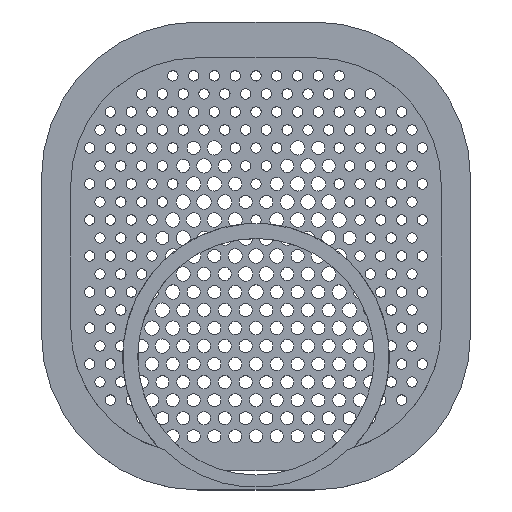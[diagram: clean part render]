
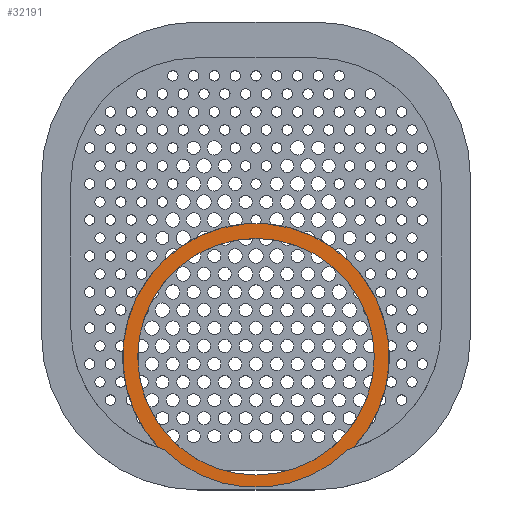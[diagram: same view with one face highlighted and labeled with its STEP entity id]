
A CAD part, top view. The second image highlights one B-rep face of the part: STEP entity #32191.
In plain terms, the highlighted planar face has unit normal (0, 0, 1).
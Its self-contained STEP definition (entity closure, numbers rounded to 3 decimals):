
#12131 = CYLINDRICAL_SURFACE('',#12132,18.2);
#12132 = AXIS2_PLACEMENT_3D('',#12133,#12134,#12135);
#12133 = CARTESIAN_POINT('',(0.,-15.5,2.1));
#12134 = DIRECTION('',(-0.,0.,1.));
#12135 = DIRECTION('',(1.,0.,0.));
#31276 = VERTEX_POINT('',#31277);
#31277 = CARTESIAN_POINT('',(18.2,-15.5,1.9));
#31298 = EDGE_CURVE('',#31276,#31276,#31299,.T.);
#31299 = SURFACE_CURVE('',#31300,(#31305,#31312),.PCURVE_S1.);
#31300 = CIRCLE('',#31301,18.2);
#31301 = AXIS2_PLACEMENT_3D('',#31302,#31303,#31304);
#31302 = CARTESIAN_POINT('',(0.,-15.5,1.9));
#31303 = DIRECTION('',(-0.,0.,1.));
#31304 = DIRECTION('',(1.,0.,0.));
#31305 = PCURVE('',#12131,#31306);
#31306 = DEFINITIONAL_REPRESENTATION('',(#31307),#31311);
#31307 = LINE('',#31308,#31309);
#31308 = CARTESIAN_POINT('',(0.,-0.2));
#31309 = VECTOR('',#31310,1.);
#31310 = DIRECTION('',(1.,-0.));
#31311 = ( GEOMETRIC_REPRESENTATION_CONTEXT(2) 
PARAMETRIC_REPRESENTATION_CONTEXT() REPRESENTATION_CONTEXT('2D SPACE',''
  ) );
#31312 = PCURVE('',#31313,#31318);
#31313 = PLANE('',#31314);
#31314 = AXIS2_PLACEMENT_3D('',#31315,#31316,#31317);
#31315 = CARTESIAN_POINT('',(0.,-15.5,1.9));
#31316 = DIRECTION('',(0.,0.,-1.));
#31317 = DIRECTION('',(1.,0.,0.));
#31318 = DEFINITIONAL_REPRESENTATION('',(#31319),#31327);
#31319 = ( BOUNDED_CURVE() B_SPLINE_CURVE(2,(#31320,#31321,#31322,#31323
    ,#31324,#31325,#31326),.UNSPECIFIED.,.T.,.F.) 
B_SPLINE_CURVE_WITH_KNOTS((1,2,2,2,2,1),(-2.094,0.,
    2.094,4.189,6.283,8.378),
.UNSPECIFIED.) CURVE() GEOMETRIC_REPRESENTATION_ITEM() 
RATIONAL_B_SPLINE_CURVE((1.,0.5,1.,0.5,1.,0.5,1.)) REPRESENTATION_ITEM(
  '') );
#31320 = CARTESIAN_POINT('',(18.2,0.));
#31321 = CARTESIAN_POINT('',(18.2,-31.523));
#31322 = CARTESIAN_POINT('',(-9.1,-15.762));
#31323 = CARTESIAN_POINT('',(-36.4,0.));
#31324 = CARTESIAN_POINT('',(-9.1,15.762));
#31325 = CARTESIAN_POINT('',(18.2,31.523));
#31326 = CARTESIAN_POINT('',(18.2,0.));
#31327 = ( GEOMETRIC_REPRESENTATION_CONTEXT(2) 
PARAMETRIC_REPRESENTATION_CONTEXT() REPRESENTATION_CONTEXT('2D SPACE',''
  ) );
#31490 = CYLINDRICAL_SURFACE('',#31491,19.5);
#31491 = AXIS2_PLACEMENT_3D('',#31492,#31493,#31494);
#31492 = CARTESIAN_POINT('',(-9.,-11.,2.8));
#31493 = DIRECTION('',(0.,0.,-1.));
#31494 = DIRECTION('',(-1.,0.,-0.));
#31523 = CYLINDRICAL_SURFACE('',#31524,20.1);
#31524 = AXIS2_PLACEMENT_3D('',#31525,#31526,#31527);
#31525 = CARTESIAN_POINT('',(0.,-15.5,3.));
#31526 = DIRECTION('',(-0.,0.,1.));
#31527 = DIRECTION('',(1.,0.,0.));
#31552 = CYLINDRICAL_SURFACE('',#31553,19.5);
#31553 = AXIS2_PLACEMENT_3D('',#31554,#31555,#31556);
#31554 = CARTESIAN_POINT('',(9.,-11.,2.8));
#31555 = DIRECTION('',(0.,0.,-1.));
#31556 = DIRECTION('',(1.,0.,0.));
#32017 = CYLINDRICAL_SURFACE('',#32018,20.5);
#32018 = AXIS2_PLACEMENT_3D('',#32019,#32020,#32021);
#32019 = CARTESIAN_POINT('',(0.,-15.5,1.9));
#32020 = DIRECTION('',(-0.,0.,1.));
#32021 = DIRECTION('',(1.,0.,0.));
#32191 = ADVANCED_FACE('',(#32192,#32294),#31313,.F.);
#32192 = FACE_BOUND('',#32193,.F.);
#32193 = EDGE_LOOP('',(#32194,#32220,#32244,#32272));
#32194 = ORIENTED_EDGE('',*,*,#32195,.T.);
#32195 = EDGE_CURVE('',#32196,#32198,#32200,.T.);
#32196 = VERTEX_POINT('',#32197);
#32197 = CARTESIAN_POINT('',(-14.892,-29.589,1.9));
#32198 = VERTEX_POINT('',#32199);
#32199 = CARTESIAN_POINT('',(14.892,-29.589,1.9));
#32200 = SURFACE_CURVE('',#32201,(#32206,#32213),.PCURVE_S1.);
#32201 = CIRCLE('',#32202,20.5);
#32202 = AXIS2_PLACEMENT_3D('',#32203,#32204,#32205);
#32203 = CARTESIAN_POINT('',(0.,-15.5,1.9));
#32204 = DIRECTION('',(0.,0.,-1.));
#32205 = DIRECTION('',(-0.726,-0.687,0.
    ));
#32206 = PCURVE('',#31313,#32207);
#32207 = DEFINITIONAL_REPRESENTATION('',(#32208),#32212);
#32208 = CIRCLE('',#32209,20.5);
#32209 = AXIS2_PLACEMENT_2D('',#32210,#32211);
#32210 = CARTESIAN_POINT('',(0.,0.));
#32211 = DIRECTION('',(-0.726,0.687));
#32212 = ( GEOMETRIC_REPRESENTATION_CONTEXT(2) 
PARAMETRIC_REPRESENTATION_CONTEXT() REPRESENTATION_CONTEXT('2D SPACE',''
  ) );
#32213 = PCURVE('',#32017,#32214);
#32214 = DEFINITIONAL_REPRESENTATION('',(#32215),#32219);
#32215 = LINE('',#32216,#32217);
#32216 = CARTESIAN_POINT('',(3.899,0.));
#32217 = VECTOR('',#32218,1.);
#32218 = DIRECTION('',(-1.,0.));
#32219 = ( GEOMETRIC_REPRESENTATION_CONTEXT(2) 
PARAMETRIC_REPRESENTATION_CONTEXT() REPRESENTATION_CONTEXT('2D SPACE',''
  ) );
#32220 = ORIENTED_EDGE('',*,*,#32221,.T.);
#32221 = EDGE_CURVE('',#32198,#32222,#32224,.T.);
#32222 = VERTEX_POINT('',#32223);
#32223 = CARTESIAN_POINT('',(14.105,-29.82,1.9));
#32224 = SURFACE_CURVE('',#32225,(#32230,#32237),.PCURVE_S1.);
#32225 = CIRCLE('',#32226,19.5);
#32226 = AXIS2_PLACEMENT_3D('',#32227,#32228,#32229);
#32227 = CARTESIAN_POINT('',(9.,-11.,1.9));
#32228 = DIRECTION('',(0.,0.,-1.));
#32229 = DIRECTION('',(1.,0.,0.));
#32230 = PCURVE('',#31313,#32231);
#32231 = DEFINITIONAL_REPRESENTATION('',(#32232),#32236);
#32232 = CIRCLE('',#32233,19.5);
#32233 = AXIS2_PLACEMENT_2D('',#32234,#32235);
#32234 = CARTESIAN_POINT('',(9.,-4.5));
#32235 = DIRECTION('',(1.,0.));
#32236 = ( GEOMETRIC_REPRESENTATION_CONTEXT(2) 
PARAMETRIC_REPRESENTATION_CONTEXT() REPRESENTATION_CONTEXT('2D SPACE',''
  ) );
#32237 = PCURVE('',#31552,#32238);
#32238 = DEFINITIONAL_REPRESENTATION('',(#32239),#32243);
#32239 = LINE('',#32240,#32241);
#32240 = CARTESIAN_POINT('',(0.,0.9));
#32241 = VECTOR('',#32242,1.);
#32242 = DIRECTION('',(1.,0.));
#32243 = ( GEOMETRIC_REPRESENTATION_CONTEXT(2) 
PARAMETRIC_REPRESENTATION_CONTEXT() REPRESENTATION_CONTEXT('2D SPACE',''
  ) );
#32244 = ORIENTED_EDGE('',*,*,#32245,.F.);
#32245 = EDGE_CURVE('',#32246,#32222,#32248,.T.);
#32246 = VERTEX_POINT('',#32247);
#32247 = CARTESIAN_POINT('',(-14.105,-29.82,1.9));
#32248 = SURFACE_CURVE('',#32249,(#32254,#32265),.PCURVE_S1.);
#32249 = CIRCLE('',#32250,20.1);
#32250 = AXIS2_PLACEMENT_3D('',#32251,#32252,#32253);
#32251 = CARTESIAN_POINT('',(0.,-15.5,1.9));
#32252 = DIRECTION('',(-0.,0.,1.));
#32253 = DIRECTION('',(1.,0.,0.));
#32254 = PCURVE('',#31313,#32255);
#32255 = DEFINITIONAL_REPRESENTATION('',(#32256),#32264);
#32256 = ( BOUNDED_CURVE() B_SPLINE_CURVE(2,(#32257,#32258,#32259,#32260
    ,#32261,#32262,#32263),.UNSPECIFIED.,.T.,.F.) 
B_SPLINE_CURVE_WITH_KNOTS((1,2,2,2,2,1),(-2.094,0.,
    2.094,4.189,6.283,8.378),
.UNSPECIFIED.) CURVE() GEOMETRIC_REPRESENTATION_ITEM() 
RATIONAL_B_SPLINE_CURVE((1.,0.5,1.,0.5,1.,0.5,1.)) REPRESENTATION_ITEM(
  '') );
#32257 = CARTESIAN_POINT('',(20.1,0.));
#32258 = CARTESIAN_POINT('',(20.1,-34.814));
#32259 = CARTESIAN_POINT('',(-10.05,-17.407));
#32260 = CARTESIAN_POINT('',(-40.2,0.));
#32261 = CARTESIAN_POINT('',(-10.05,17.407));
#32262 = CARTESIAN_POINT('',(20.1,34.814));
#32263 = CARTESIAN_POINT('',(20.1,0.));
#32264 = ( GEOMETRIC_REPRESENTATION_CONTEXT(2) 
PARAMETRIC_REPRESENTATION_CONTEXT() REPRESENTATION_CONTEXT('2D SPACE',''
  ) );
#32265 = PCURVE('',#31523,#32266);
#32266 = DEFINITIONAL_REPRESENTATION('',(#32267),#32271);
#32267 = LINE('',#32268,#32269);
#32268 = CARTESIAN_POINT('',(0.,-1.1));
#32269 = VECTOR('',#32270,1.);
#32270 = DIRECTION('',(1.,-0.));
#32271 = ( GEOMETRIC_REPRESENTATION_CONTEXT(2) 
PARAMETRIC_REPRESENTATION_CONTEXT() REPRESENTATION_CONTEXT('2D SPACE',''
  ) );
#32272 = ORIENTED_EDGE('',*,*,#32273,.T.);
#32273 = EDGE_CURVE('',#32246,#32196,#32274,.T.);
#32274 = SURFACE_CURVE('',#32275,(#32280,#32287),.PCURVE_S1.);
#32275 = CIRCLE('',#32276,19.5);
#32276 = AXIS2_PLACEMENT_3D('',#32277,#32278,#32279);
#32277 = CARTESIAN_POINT('',(-9.,-11.,1.9));
#32278 = DIRECTION('',(0.,0.,-1.));
#32279 = DIRECTION('',(-1.,0.,-0.));
#32280 = PCURVE('',#31313,#32281);
#32281 = DEFINITIONAL_REPRESENTATION('',(#32282),#32286);
#32282 = CIRCLE('',#32283,19.5);
#32283 = AXIS2_PLACEMENT_2D('',#32284,#32285);
#32284 = CARTESIAN_POINT('',(-9.,-4.5));
#32285 = DIRECTION('',(-1.,0.));
#32286 = ( GEOMETRIC_REPRESENTATION_CONTEXT(2) 
PARAMETRIC_REPRESENTATION_CONTEXT() REPRESENTATION_CONTEXT('2D SPACE',''
  ) );
#32287 = PCURVE('',#31490,#32288);
#32288 = DEFINITIONAL_REPRESENTATION('',(#32289),#32293);
#32289 = LINE('',#32290,#32291);
#32290 = CARTESIAN_POINT('',(0.,0.9));
#32291 = VECTOR('',#32292,1.);
#32292 = DIRECTION('',(1.,-0.));
#32293 = ( GEOMETRIC_REPRESENTATION_CONTEXT(2) 
PARAMETRIC_REPRESENTATION_CONTEXT() REPRESENTATION_CONTEXT('2D SPACE',''
  ) );
#32294 = FACE_BOUND('',#32295,.F.);
#32295 = EDGE_LOOP('',(#32296));
#32296 = ORIENTED_EDGE('',*,*,#31298,.T.);
